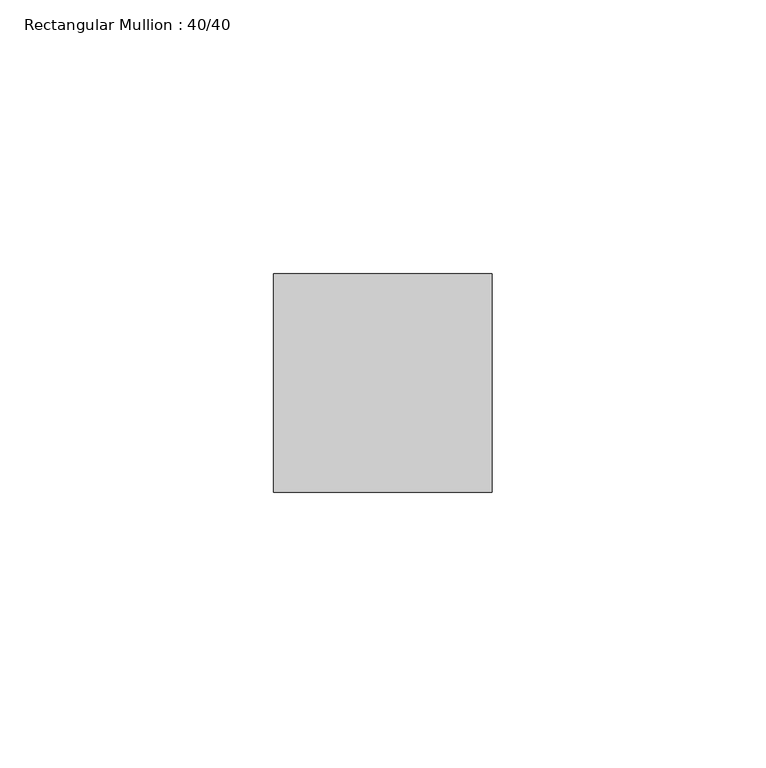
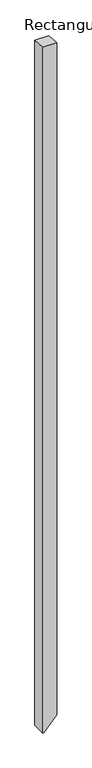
"""IFC4 building model written with IfcOpenShell, lengths in millimetres: member geometry, Rectangular Mullion : 40/40."""

from ifc_helpers import new_model, si_unit, frame, origin, place, context, project, spatial, circle_curve, source, transform, mapped, element, save
from ifc_brep_helpers import plane_surface, cylinder_surface, advanced_brep


def rectangular_mullion_40_40_8bbfeddd(model_context):
    return source(origin(), model_context, "Body", "AdvancedBrep", [
        advanced_brep(
        [(-20.0, 20.0, -1.3985362), (20.0, 20.0, -1.3985362), (20.0, 20.0, -2047.7536376), (-17.6431166, 20.0, -2090.1890334), (-20.0, 20.0, -2090.1890334), (-20.0, -20.0, 1.3985362), (-20.0, -20.0, -2090.1890334), (20.0, -20.0, 1.3985362), (-17.6431166, -20.0, -2090.1890334), (20.0, -20.0, -2047.7536376)],
        [
            (0, 1),
            (1, 2),
            (2, 3, circle_curve(frame((-2330.4684272, 20.0, -0.6400946), z_axis=(0.0, 1.0, 0.0), x_axis=(0.9999999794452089, 0.0, 0.00020275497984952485)), 3116.9497405)),
            (3, 4),
            (4, 0),
            (5, 0),
            (4, 6),
            (6, 5),
            (7, 5),
            (6, 8),
            (8, 9, circle_curve(frame((-2330.4684272, -20.0, -0.6400946), z_axis=(0.0, -1.0, 0.0), x_axis=(0.9999999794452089, 0.0, 0.00020275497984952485)), 3116.9497405)),
            (9, 7),
            (1, 7),
            (9, 2),
            (8, 3),
        ],
        [
            plane_surface(frame((20.0, 20.0, 0.0), z_axis=(0.0, 1.0, 0.0), x_axis=(0.0, 0.0, -1.0))),
            plane_surface(frame((-20.0, 20.0, 0.0), z_axis=(-1.0, 0.0, 0.0), x_axis=(0.0, 0.0, -1.0))),
            plane_surface(frame((-20.0, -20.0, 0.0), z_axis=(0.0, -1.0, 0.0), x_axis=(0.0, 0.0, -1.0))),
            plane_surface(frame((20.0, -20.0, 0.0), z_axis=(1.0, 0.0, 0.0), x_axis=(0.0, 0.0, -1.0))),
            plane_surface(frame((-304.8, 0.0, 0.0), z_axis=(0.0, 0.0697564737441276, 0.9975640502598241), x_axis=(0.0, 0.9975640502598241, -0.0697564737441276))),
            cylinder_surface(frame((-2330.4684272, 0.0, -0.6400946), z_axis=(0.0, 1.0000000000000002, 0.0), x_axis=(0.9999999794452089, 0.0, 0.00020275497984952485)), 3116.9497405),
            plane_surface(frame((-17.6431166, 20.0, -2090.1890334), z_axis=(0.0, 0.0, -1.0), x_axis=(-1.0, 0.0, 0.0))),
        ],
        [
            (0, [[1, 2, 3, 4, 5]]),
            (1, [[6, -5, 7, 8]]),
            (2, [[9, -8, 10, 11, 12]]),
            (3, [[13, -12, 14, -2]]),
            (4, [[-1, -6, -9, -13]]),
            (5, [[-14, -11, 15, -3]]),
            (6, [[-10, -7, -4, -15]]),
        ],
    ),
    ])


if __name__ == "__main__":
    model = new_model("IFC4")
    model_context = context("Model", 3, world=origin())
    ifc_project = project(units=[si_unit("LENGTHUNIT", "METRE", prefix="MILLI")], contexts=[model_context])
    site = spatial("IfcSite", under=ifc_project)
    building = spatial("IfcBuilding", under=site)
    placement = place(None, origin())
    rectangular_mullion_40_40_shape = rectangular_mullion_40_40_8bbfeddd(model_context)
    element("IfcMember", 1, ObjectType="Rectangular Mullion : 40/40", at=placement, inside=building, context=model_context, shape_type="MappedRepresentation", body=[
        mapped(rectangular_mullion_40_40_shape, transform((0.0, 0.0, 0.0), x_axis=(1.0, 0.0, 0.0), y_axis=(0.0, 1.0, 0.0), z_axis=(0.0, 0.0, 1.0))),
    ])
    save(model, "model.ifc")
